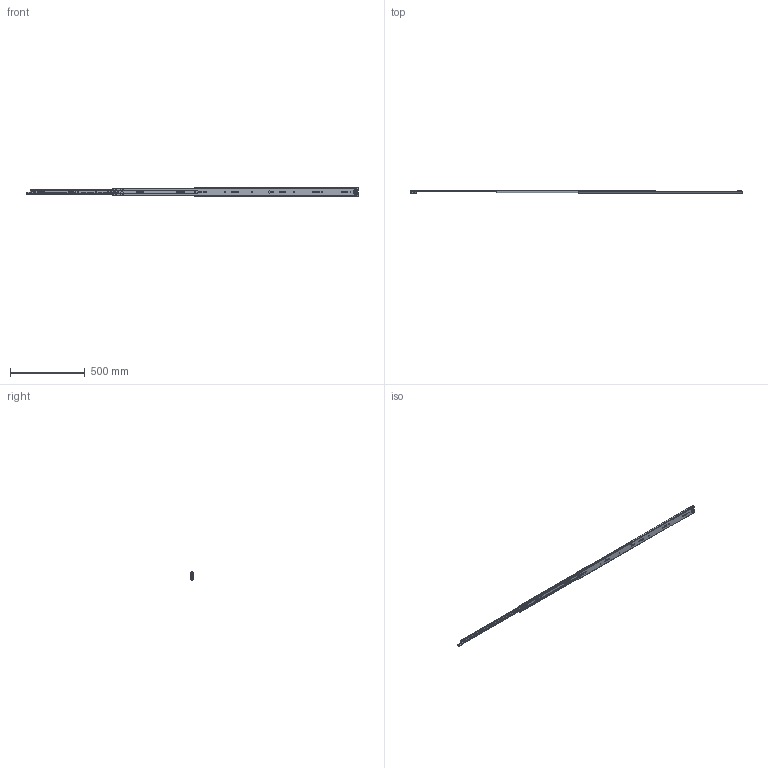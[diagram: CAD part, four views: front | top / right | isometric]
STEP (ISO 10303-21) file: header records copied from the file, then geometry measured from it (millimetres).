
FILE_DESCRIPTION((''),'2;1');
FILE_NAME('KP-57-01ZUZHUANGTU-44_ASM','2023-04-01T',('jishu015'),(''),'PRO/ENGINEER BY PARAMETRIC TECHNOLOGY CORPORATION, 2010280','PRO/ENGINEER BY PARAMETRIC TECHNOLOGY CORPORATION, 2010280','');
FILE_SCHEMA(('CONFIG_CONTROL_DESIGN'));
Products named in the file (22): KP-57-01WEIKE-18_____; 1057WEIJIAO_____; WAIKE____ASM; KP-57-01ZHONGGUI-18_____; ZHONGGUIPEIJIAN-11___; ZHONGGUISUOKOU-11___; KP-57-01ZHONGGUI-18______ASM; 1057XIAOZHUJIA_____; 1057-5-6GANZHU_____; 1057XIAOZHUJIA-14GE______ASM; KP-57-01NEIGUI-18_____; PJ-57-08___; DIAOPIAN-11___; 50XINSUOKOU-1___; TANHUANG___; 1053-3SBANJI122_; JIAO11_; KP-57-01NEIGUI-18______ASM; 1053ZHUTIAO-175_________; 53-5-6GANZHU_________; 1053ZHUTIAO-175MM____ASM; KP-57-01ZUZHUANGTU-44_ASM
Assembly tree (120 placements, depth 3):
  KP-57-01ZUZHUANGTU-44_ASM
    WAIKE____ASM
      KP-57-01WEIKE-18_____
      1057WEIJIAO_____
    KP-57-01ZHONGGUI-18______ASM
      KP-57-01ZHONGGUI-18_____
      ZHONGGUIPEIJIAN-11___
      ZHONGGUISUOKOU-11___
    1057XIAOZHUJIA-14GE______ASM
      1057XIAOZHUJIA_____
      1057-5-6GANZHU_____  x80
    KP-57-01NEIGUI-18______ASM
      KP-57-01NEIGUI-18_____
      PJ-57-08___
      DIAOPIAN-11___
      50XINSUOKOU-1___
      TANHUANG___
      1053-3SBANJI122_
      JIAO11_
    1053ZHUTIAO-175MM____ASM  x2
      1053ZHUTIAO-175_________
      53-5-6GANZHU_________
Bounding box: 2226.92 x 19 x 57.7 mm (x, y, z)
Volume: 484686 mm3; surface area: 529525.2 mm2
Topology: 137 solids, 137 shells, 3184 faces, 9220 edges, 5725 vertices
Faces by surface type: cylinder 1401, plane 1252, sphere 251, bspline 146, cone 86, torus 25, extrusion 23
Entity records: 101497 total; most frequent: CARTESIAN_POINT 24889, ORIENTED_EDGE 16220, DIRECTION 15807, EDGE_CURVE 8110, AXIS2_PLACEMENT_3D 5469, VERTEX_POINT 5233, VECTOR 4869, LINE 4846
